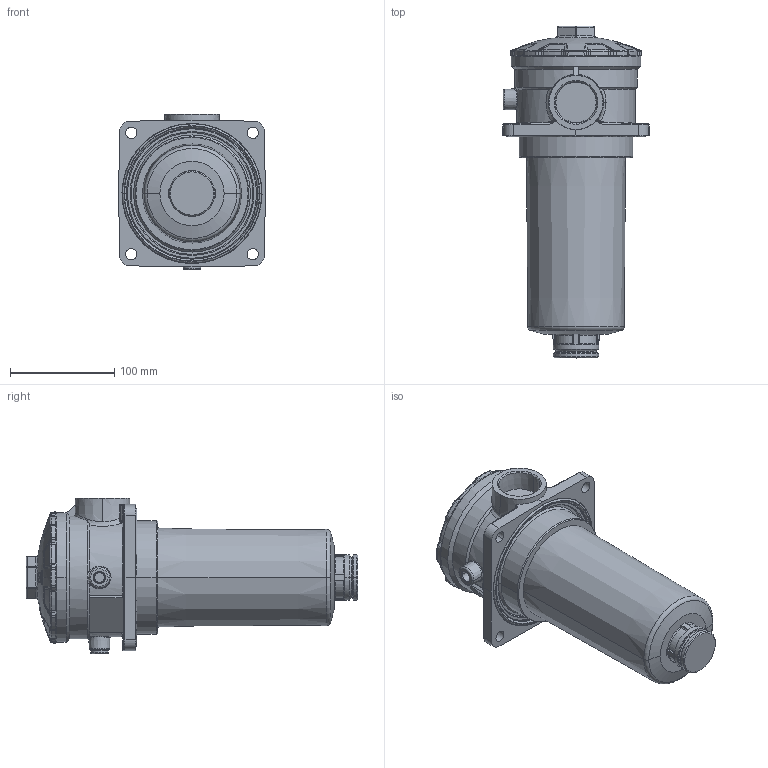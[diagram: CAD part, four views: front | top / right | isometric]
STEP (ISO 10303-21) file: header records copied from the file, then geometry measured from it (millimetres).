
FILE_DESCRIPTION((''),'2;1');
FILE_NAME('E_212-156_27570700_','2024-09-03T14:28:42',('a.heinl'),(''),'CREO PARAMETRIC BY PTC INC, 2023254','CREO PARAMETRIC BY PTC INC, 2023254','');
FILE_SCHEMA(('AUTOMOTIVE_DESIGN { 1 0 10303 214 1 1 1 1 }'));
Products named in the file (1): E_212-156_27570700_
Bounding box: 141 x 318.8 x 149.1 mm (x, y, z)
Volume: 2484748.5 mm3; surface area: 151795.4 mm2
Topology: 1 solids, 4 shells, 1061 faces, 2712 edges, 1653 vertices
Faces by surface type: plane 347, cylinder 219, bspline 192, torus 136, cone 85, sphere 67, extrusion 15
Entity records: 59143 total; most frequent: CARTESIAN_POINT 19198, ORIENTED_EDGE 5358, DIRECTION 4961, PRESENTATION_STYLE_ASSIGNMENT 3756, STYLED_ITEM 2695, CURVE_STYLE 2694, EDGE_CURVE 2679, AXIS2_PLACEMENT_3D 2162
